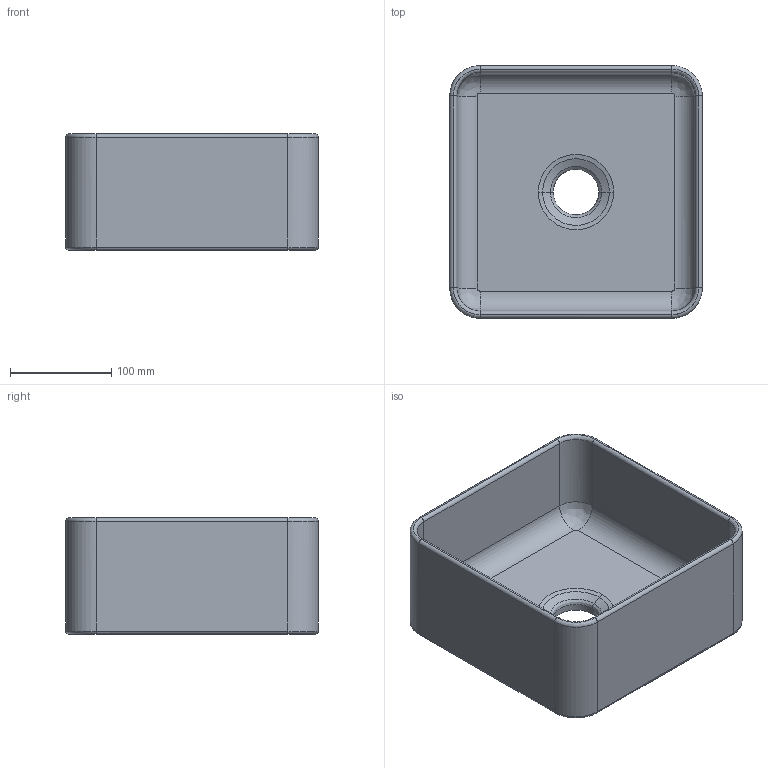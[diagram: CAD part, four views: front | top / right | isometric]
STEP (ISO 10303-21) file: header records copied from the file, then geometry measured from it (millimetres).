
FILE_DESCRIPTION(/* description */ (''),/* implementation_level */ '2;1');
FILE_NAME(/* name */ 'Dado',/* time_stamp */ '2023-12-05T10:10:02+01:00',/* author */ (''),/* organization */ (''),/* preprocessor_version */ 'ST-DEVELOPER v16.5',/* originating_system */ '',/* authorisation */ '');
FILE_SCHEMA (('CONFIG_CONTROL_DESIGN'));
Length unit declared in the file: millimetre
Products named in the file (1): Document
Bounding box: 250 x 250 x 115 mm (x, y, z)
Volume: 1666080.3 mm3; surface area: 308514.2 mm2
Topology: 1 solids, 1 shells, 59 faces, 130 edges, 74 vertices
Faces by surface type: cylinder 26, bspline 22, plane 11
Entity records: 1810 total; most frequent: CARTESIAN_POINT 952, ORIENTED_EDGE 260, EDGE_CURVE 130, VERTEX_POINT 74, EDGE_LOOP 62, ADVANCED_FACE 59, FACE_OUTER_BOUND 59, DIRECTION 41
